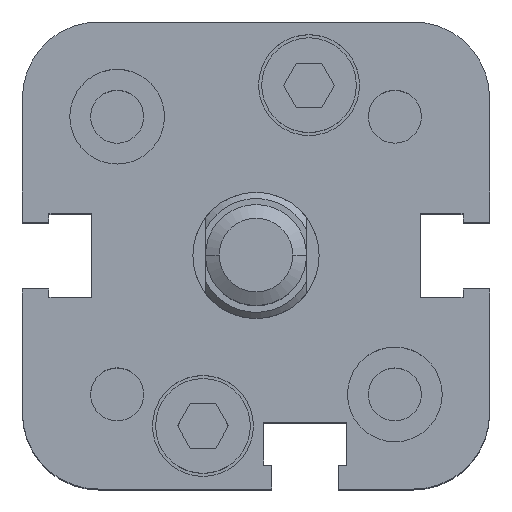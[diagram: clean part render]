
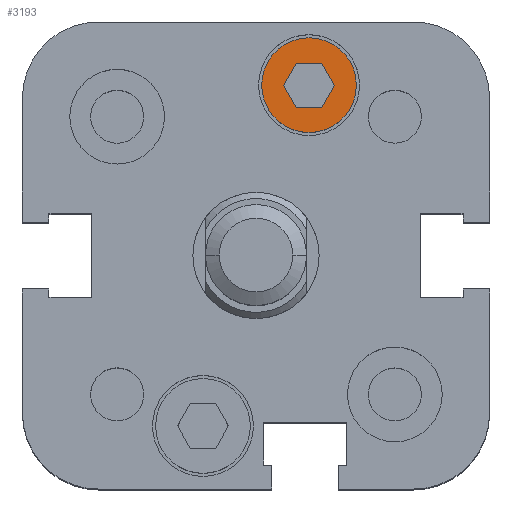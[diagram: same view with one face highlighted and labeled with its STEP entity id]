
A CAD part, top view. The second image highlights one B-rep face of the part: STEP entity #3193.
In plain terms, the highlighted planar face has unit normal (0, 0, 1).
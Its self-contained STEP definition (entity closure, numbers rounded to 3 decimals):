
#707 = CARTESIAN_POINT ( 'NONE',  ( 3.19, 11.75, 13. ) ) ;
#773 = CARTESIAN_POINT ( 'NONE',  ( 3.19, 15.25, 13. ) ) ;
#885 = CARTESIAN_POINT ( 'NONE',  ( 2.179, 13.5, 13. ) ) ;
#3026 = ORIENTED_EDGE ( 'NONE', *, *, #5904, .F. ) ;
#3035 = EDGE_LOOP ( 'NONE', ( #3026, #3145, #3090, #3048, #3141, #3098 ) ) ;
#3038 = EDGE_CURVE ( 'NONE', #4986, #4943, #8702, .T. ) ;
#3039 = ORIENTED_EDGE ( 'NONE', *, *, #4942, .T. ) ;
#3043 = ORIENTED_EDGE ( 'NONE', *, *, #3038, .T. ) ;
#3048 = ORIENTED_EDGE ( 'NONE', *, *, #3212, .T. ) ;
#3089 = EDGE_LOOP ( 'NONE', ( #3039, #3043 ) ) ;
#3090 = ORIENTED_EDGE ( 'NONE', *, *, #3185, .F. ) ;
#3098 = ORIENTED_EDGE ( 'NONE', *, *, #5697, .F. ) ;
#3141 = ORIENTED_EDGE ( 'NONE', *, *, #3162, .T. ) ;
#3145 = ORIENTED_EDGE ( 'NONE', *, *, #3190, .T. ) ;
#3162 = EDGE_CURVE ( 'NONE', #3177, #5515, #9004, .T. ) ;
#3165 = VERTEX_POINT ( 'NONE', #8904 ) ;
#3177 = VERTEX_POINT ( 'NONE', #8899 ) ;
#3185 = EDGE_CURVE ( 'NONE', #3165, #3186, #8894, .T. ) ;
#3186 = VERTEX_POINT ( 'NONE', #8890 ) ;
#3190 = EDGE_CURVE ( 'NONE', #5631, #3186, #8937, .T. ) ;
#3193 = ADVANCED_FACE ( 'NONE', ( #8932, #8931 ), #8930, .T. ) ;
#3212 = EDGE_CURVE ( 'NONE', #3165, #3177, #9056, .T. ) ;
#4942 = EDGE_CURVE ( 'NONE', #4943, #4986, #11449, .T. ) ;
#4943 = VERTEX_POINT ( 'NONE', #11451 ) ;
#4986 = VERTEX_POINT ( 'NONE', #11559 ) ;
#5515 = VERTEX_POINT ( 'NONE', #707 ) ;
#5631 = VERTEX_POINT ( 'NONE', #773 ) ;
#5683 = VERTEX_POINT ( 'NONE', #885 ) ;
#5697 = EDGE_CURVE ( 'NONE', #5683, #5515, #16511, .T. ) ;
#5904 = EDGE_CURVE ( 'NONE', #5631, #5683, #15598, .T. ) ;
#8699 = DIRECTION ( 'NONE',  ( 0.866, 0.5, 0. ) ) ;
#8700 = DIRECTION ( 'NONE',  ( 0., 0., 1. ) ) ;
#8701 = AXIS2_PLACEMENT_3D ( 'NONE', #8708, #8700, #8699 ) ;
#8702 = CIRCLE ( 'NONE', #8701, 3.75 ) ;
#8708 = CARTESIAN_POINT ( 'NONE',  ( 4.2, 13.5, 13. ) ) ;
#8890 = CARTESIAN_POINT ( 'NONE',  ( 5.21, 15.25, 13. ) ) ;
#8891 = DIRECTION ( 'NONE',  ( -0.5, 0.866, 0. ) ) ;
#8892 = VECTOR ( 'NONE', #8891, 1000. ) ;
#8893 = CARTESIAN_POINT ( 'NONE',  ( 6.221, 13.5, 13. ) ) ;
#8894 = LINE ( 'NONE', #8893, #8892 ) ;
#8899 = CARTESIAN_POINT ( 'NONE',  ( 5.21, 11.75, 13. ) ) ;
#8904 = CARTESIAN_POINT ( 'NONE',  ( 6.221, 13.5, 13. ) ) ;
#8909 = DIRECTION ( 'NONE',  ( -1., 0., 0. ) ) ;
#8910 = VECTOR ( 'NONE', #8909, 1000. ) ;
#8911 = CARTESIAN_POINT ( 'NONE',  ( 5.21, 11.75, 13. ) ) ;
#8925 = DIRECTION ( 'NONE',  ( 0.866, 0.5, 0. ) ) ;
#8926 = DIRECTION ( 'NONE',  ( 0., 0., 1. ) ) ;
#8927 = CARTESIAN_POINT ( 'NONE',  ( 4.2, 13.5, 13. ) ) ;
#8929 = AXIS2_PLACEMENT_3D ( 'NONE', #8927, #8926, #8925 ) ;
#8930 = PLANE ( 'NONE',  #8929 ) ;
#8931 = FACE_BOUND ( 'NONE', #3035, .T. ) ;
#8932 = FACE_OUTER_BOUND ( 'NONE', #3089, .T. ) ;
#8934 = DIRECTION ( 'NONE',  ( 1., 0., 0. ) ) ;
#8935 = VECTOR ( 'NONE', #8934, 1000. ) ;
#8936 = CARTESIAN_POINT ( 'NONE',  ( 3.19, 15.25, 13. ) ) ;
#8937 = LINE ( 'NONE', #8936, #8935 ) ;
#9004 = LINE ( 'NONE', #8911, #8910 ) ;
#9053 = DIRECTION ( 'NONE',  ( -0.5, -0.866, 0. ) ) ;
#9054 = VECTOR ( 'NONE', #9053, 1000. ) ;
#9055 = CARTESIAN_POINT ( 'NONE',  ( 6.221, 13.5, 13. ) ) ;
#9056 = LINE ( 'NONE', #9055, #9054 ) ;
#11428 = DIRECTION ( 'NONE',  ( 0.866, 0.5, 0. ) ) ;
#11429 = DIRECTION ( 'NONE',  ( 0., 0., 1. ) ) ;
#11430 = CARTESIAN_POINT ( 'NONE',  ( 4.2, 13.5, 13. ) ) ;
#11448 = AXIS2_PLACEMENT_3D ( 'NONE', #11430, #11429, #11428 ) ;
#11449 = CIRCLE ( 'NONE', #11448, 3.75 ) ;
#11451 = CARTESIAN_POINT ( 'NONE',  ( 7.448, 15.375, 13. ) ) ;
#11559 = CARTESIAN_POINT ( 'NONE',  ( 0.952, 11.625, 13. ) ) ;
#15595 = DIRECTION ( 'NONE',  ( -0.5, -0.866, 0. ) ) ;
#15596 = VECTOR ( 'NONE', #15595, 1000. ) ;
#15597 = CARTESIAN_POINT ( 'NONE',  ( 3.19, 15.25, 13. ) ) ;
#15598 = LINE ( 'NONE', #15597, #15596 ) ;
#16511 = LINE ( 'NONE', #16526, #16527 ) ;
#16526 = CARTESIAN_POINT ( 'NONE',  ( 2.179, 13.5, 13. ) ) ;
#16527 = VECTOR ( 'NONE', #16528, 1000. ) ;
#16528 = DIRECTION ( 'NONE',  ( 0.5, -0.866, 0. ) ) ;
